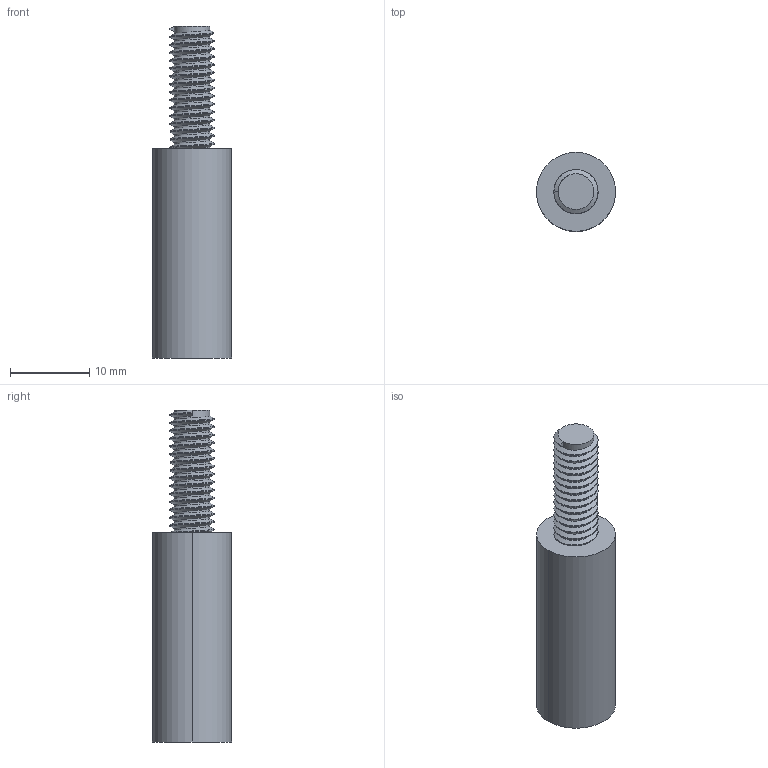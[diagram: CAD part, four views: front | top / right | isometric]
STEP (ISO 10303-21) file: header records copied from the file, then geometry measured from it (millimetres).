
FILE_DESCRIPTION (( 'STEP AP203' ), '1' );
FILE_NAME ('T010206.STEP', '2018-02-27T09:44:36', ( '' ), ( '' ), 'SwSTEP 2.0', 'SolidWorks 2016', '' );
FILE_SCHEMA (( 'CONFIG_CONTROL_DESIGN' ));
Length unit declared in the file: millimetre
Products named in the file (1): T010206
Bounding box: 10 x 10 x 42 mm (x, y, z)
Volume: 2297 mm3; surface area: 1447.2 mm2
Topology: 1 solids, 1 shells, 48 faces, 128 edges, 84 vertices
Faces by surface type: cylinder 34, plane 11, bspline 3
Entity records: 3847 total; most frequent: CARTESIAN_POINT 2774, ORIENTED_EDGE 256, DIRECTION 159, EDGE_CURVE 128, VERTEX_POINT 84, LINE 55, VECTOR 55, AXIS2_PLACEMENT_3D 52
